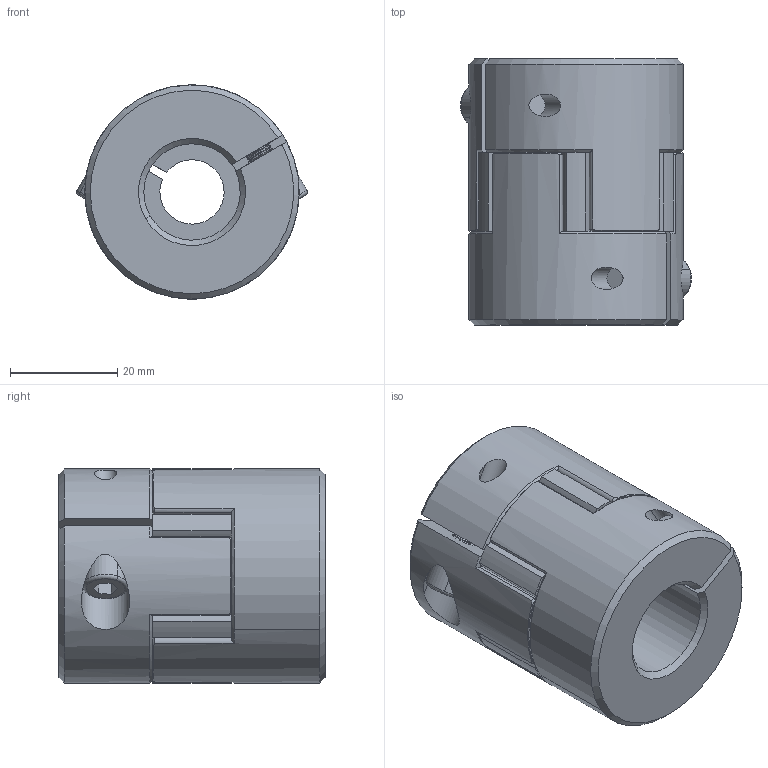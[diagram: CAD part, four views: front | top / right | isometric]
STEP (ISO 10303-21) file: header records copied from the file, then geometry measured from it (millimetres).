
FILE_DESCRIPTION (( 'STEP AP203' ), '1' );
FILE_NAME ('LF-B-D40L50-12-18.STEP', '2021-10-25T02:44:41', ( '' ), ( '' ), 'SwSTEP 2.0', 'SolidWorks 2018', '' );
FILE_SCHEMA (( 'CONFIG_CONTROL_DESIGN' ));
Length unit declared in the file: millimetre
Products named in the file (1): LF-B-D40L50-12-18
Bounding box: 43.11 x 49.7 x 40 mm (x, y, z)
Volume: 50522.9 mm3; surface area: 14606.6 mm2
Topology: 1 solids, 7 shells, 471 faces, 1117 edges, 662 vertices
Faces by surface type: cone 170, cylinder 169, plane 128, torus 4
Entity records: 13972 total; most frequent: CARTESIAN_POINT 2895, DIRECTION 2509, ORIENTED_EDGE 2226, EDGE_CURVE 1113, AXIS2_PLACEMENT_3D 1040, VERTEX_POINT 662, CIRCLE 568, EDGE_LOOP 487
